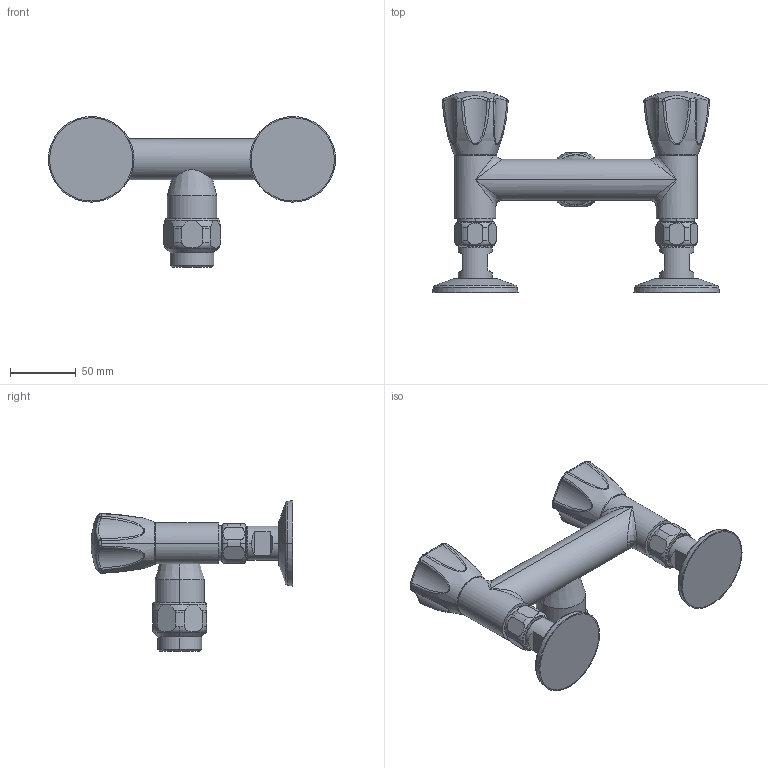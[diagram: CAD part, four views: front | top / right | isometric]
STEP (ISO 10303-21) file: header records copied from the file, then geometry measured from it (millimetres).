
FILE_DESCRIPTION((''),'2;1');
FILE_NAME('K_24_42_18_000C86','2012-01-04T',('HEF'),(''),'PRO/ENGINEER BY PARAMETRIC TECHNOLOGY CORPORATION, 2011080','PRO/ENGINEER BY PARAMETRIC TECHNOLOGY CORPORATION, 2011080','');
FILE_SCHEMA(('AUTOMOTIVE_DESIGN_CC2 { 1 2 10303 214 -1 1 5 2 }'));
Length unit declared in the file: millimetre
Products named in the file (1): K_24_42_18_000C86
Bounding box: 218 x 152.93 x 114.6 mm (x, y, z)
Volume: 471809.8 mm3; surface area: 73312.9 mm2
Topology: 3 solids, 3 shells, 350 faces, 819 edges, 496 vertices
Faces by surface type: plane 118, cylinder 70, torus 62, bspline 36, cone 32, sphere 28, extrusion 4
Entity records: 20036 total; most frequent: CARTESIAN_POINT 9561, DIRECTION 1661, ORIENTED_EDGE 1638, EDGE_CURVE 819, AXIS2_PLACEMENT_3D 678, VERTEX_POINT 496, FILL_AREA_STYLE_COLOUR 374, FILL_AREA_STYLE 374
